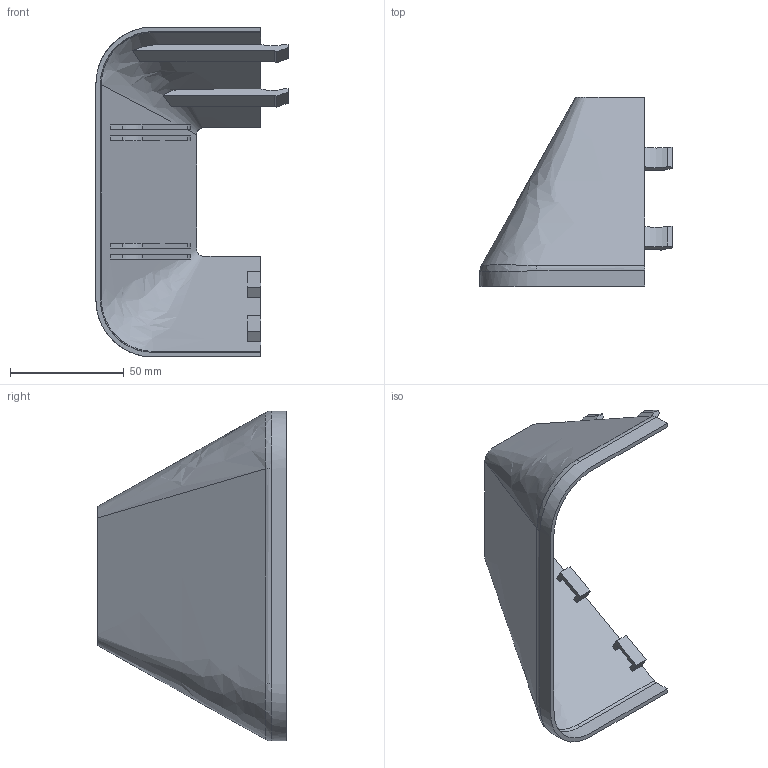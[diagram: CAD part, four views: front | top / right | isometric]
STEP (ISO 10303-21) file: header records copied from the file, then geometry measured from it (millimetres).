
FILE_DESCRIPTION (( 'STEP AP214' ), '1' );
FILE_NAME ('084.207.003.STEP', '2021-02-05T10:46:46', ( '' ), ( '' ), 'SwSTEP 2.0', 'SolidWorks 2018', '' );
FILE_SCHEMA (( 'AUTOMOTIVE_DESIGN' ));
Length unit declared in the file: millimetre
Products named in the file (1): 084.207.003
Bounding box: 84.5 x 83 x 145 mm (x, y, z)
Volume: 42212.8 mm3; surface area: 44768 mm2
Topology: 1 solids, 1 shells, 86 faces, 258 edges, 175 vertices
Faces by surface type: plane 56, bspline 16, cylinder 14
Entity records: 7833 total; most frequent: CARTESIAN_POINT 5605, ORIENTED_EDGE 516, DIRECTION 377, EDGE_CURVE 258, VERTEX_POINT 175, LINE 147, VECTOR 147, AXIS2_PLACEMENT_3D 115
